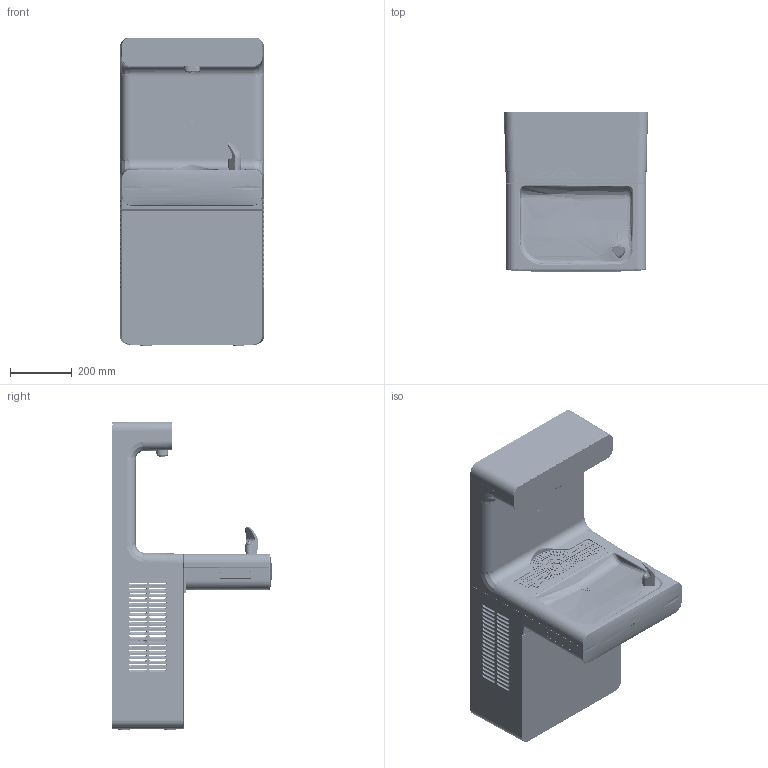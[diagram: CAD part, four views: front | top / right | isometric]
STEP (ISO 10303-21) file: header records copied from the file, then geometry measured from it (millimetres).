
FILE_DESCRIPTION (( 'STEP AP214' ), '1' );
FILE_NAME ('ATW-1-FBAC for BIM United.STEP', '2024-08-23T18:33:00', ( '' ), ( '' ), 'SwSTEP 2.0', 'SolidWorks 2021', '' );
FILE_SCHEMA (( 'AUTOMOTIVE_DESIGN' ));
Length unit declared in the file: inch
Products named in the file (103): 001(2); OLED-0603(2); BUBBLER_SILICONE_A0_20231129(2); TEMPERATURE_CONTROL_HOLDER(2); 0012_ASM(2); 0001_ASM; 3_SILICONE(2); _X2_87BA4E1D_X0_2_18_1(2); LED7_ASM(2); LED3_ASM(2); school_with_bubbler_A15_20240426(2); R1_1_2_ASM(2); 0004_ASM; 10_165-002; 0065; 0063(2); LED1_ASM(2); M6X27000; 18_160-00V; 0069; PCB_ASM(2); 00-2(2); 4X10_000_ASM_2_ASM(2); 0062; 0024_ASM; 4X10BMB(2); _X2_87BA4E1D_X0_2_2_1(2); PCB00_ASM(2); 0072; 4X10_100_ASM(2); 4X6KTHNI; _1_5000(2); TCON_GH3A_SV03_W(2); 000(2); TCON_GH8A_SV08(2); PET0001; 00-11; 0019; 006_ASM-1; 00-10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
Assembly tree (139 placements, depth 8):
  ATW-1-FBAC for BIM United
    school_with_bubbler_A15_20240426(2)
      0006_ASM(2)
        0001_ASM
          00(2)
          00-0
        0007_ASM
          0008_ASM
            PCB00_ASM(2)
              R1_1_2_ASM(2)
                R-1206_1(2)
              R2_1_2_ASM(2)
                R-1206_1(2)
              CN2_ASM(2)
                TCON_GH3A_SV03_W(2)
          _1_5000(2)
          000(2)
        0004_ASM
          FACE_ASM
            PET0001
            00-1(2)
          LOGO_LIGHT_GUIDE(2)
          00-2(2)
        0012_ASM(2)
          001(2)
          001-3(2)
          001-5
          0019
        0020_ASM
          0024_ASM
            PRODUCT1_ASM
              18_160-00V
              18_160-001P
              10_165-002
              18_160-003
              MF1300-0100_0
          002(2)
          002-6
        W22001-E0601B_20230911_ASM(2)
          PCB_ASM(2)
            CN1_ASM(2)
              TCON_GH8A_SV08(2)
            LED1_ASM(2)
              OLED-0603(2)
            LED2_ASM(2)
              OLED-0603(2)
            LED3_ASM(2)
              OLED-0603(2)
            LED4_ASM(2)
              OLED-0603(2)
            LED5_ASM(2)
              OLED-0603(2)
            LED6_ASM(2)
              OLED-0603(2)
            LED7_ASM(2)
              OLED-0603(2)
            BOARD_1_2(2)
        LIGHT_PCB
        4X10BMB(2)
      0026_ASM
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Bounding box: 468.02 x 519.8 x 1002.1 mm (x, y, z)
Volume: 5141482.6 mm3; surface area: 5799106.6 mm2
Topology: 115 solids, 133 shells, 23268 faces, 64541 edges, 41802 vertices
Faces by surface type: plane 13531, cylinder 4888, bspline 3039, cone 1008, torus 620, sphere 182
Entity records: 827391 total; most frequent: CARTESIAN_POINT 365763, ORIENTED_EDGE 103928, DIRECTION 81932, EDGE_CURVE 51964, VERTEX_POINT 33737, VECTOR 29152, LINE 29152, AXIS2_PLACEMENT_3D 26390
